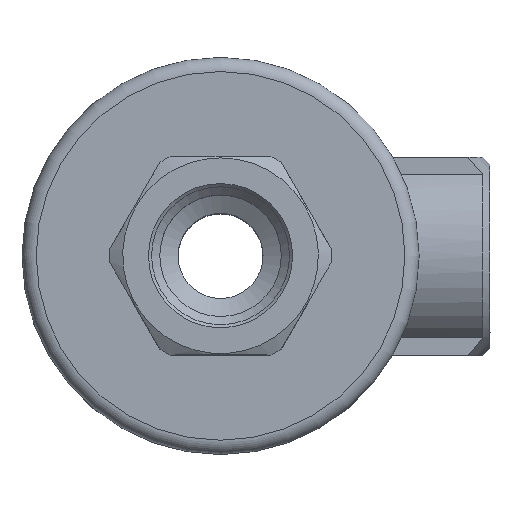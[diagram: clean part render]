
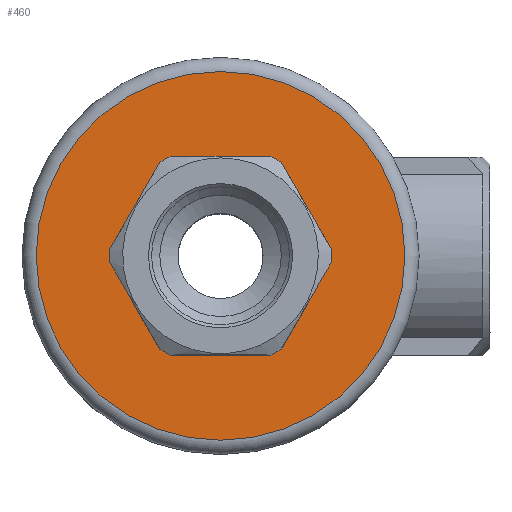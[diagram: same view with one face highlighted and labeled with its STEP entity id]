
A CAD part, top view. The second image highlights one B-rep face of the part: STEP entity #460.
In plain terms, the highlighted planar face has unit normal (0, 0, 1).
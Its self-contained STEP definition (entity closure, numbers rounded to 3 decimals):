
#460=ADVANCED_FACE('', (#470,#480), #490, .T.);
#4610=AXIS2_PLACEMENT_3D('Ax2Pl3d', #4620, #4630, #4640);
#4650=AXIS2_PLACEMENT_3D('Ax2Pl3d', #4660, #4670, #4680);
#4690=AXIS2_PLACEMENT_3D('Ax2Pl3d', #4700, #4710, #4720);
#4730=AXIS2_PLACEMENT_3D('Ax2Pl3d', #4740, #4750, #4760);
#4770=AXIS2_PLACEMENT_3D('Ax2Pl3d', #4780, #4790, #4800);
#4810=AXIS2_PLACEMENT_3D('Ax2Pl3d', #4820, #4830, #4840);
#4850=AXIS2_PLACEMENT_3D('Ax2Pl3d', #4860, #4870, #4880);
#4890=AXIS2_PLACEMENT_3D('Ax2Pl3d', #4900, #4910, #4920);
#4620=CARTESIAN_POINT('HicPkt', (35.714,20.774,
50.514));
#4660=CARTESIAN_POINT('HicPkt', (22.714,20.774,
50.514));
#23780=CARTESIAN_POINT('', (22.714,7.774,50.514));
#23790=CARTESIAN_POINT('', (19.162,27.774,50.514));
#23800=CARTESIAN_POINT('', (26.267,27.774,50.514));
#23810=CARTESIAN_POINT('', (19.162,27.774,50.514));
#4700=CARTESIAN_POINT('HicPkt', (22.714,20.774,
50.514));
#23820=CARTESIAN_POINT('', (27.,27.351,50.514));
#23830=CARTESIAN_POINT('', (27.,27.351,50.514));
#23840=CARTESIAN_POINT('', (30.553,21.198,50.514));
#4740=CARTESIAN_POINT('HicPkt', (22.714,20.774,
50.514));
#23850=CARTESIAN_POINT('', (30.553,20.351,50.514));
#23860=CARTESIAN_POINT('', (30.553,20.351,50.514));
#23870=CARTESIAN_POINT('', (27.,14.198,50.514));
#4780=CARTESIAN_POINT('HicPkt', (22.714,20.774,
50.514));
#23880=CARTESIAN_POINT('', (26.267,13.774,50.514));
#23890=CARTESIAN_POINT('', (26.267,13.774,50.514));
#23900=CARTESIAN_POINT('', (19.162,13.774,50.514));
#4820=CARTESIAN_POINT('HicPkt', (22.714,20.774,
50.514));
#23910=CARTESIAN_POINT('', (18.429,14.198,50.514));
#23920=CARTESIAN_POINT('', (18.429,14.198,50.514));
#23930=CARTESIAN_POINT('', (14.876,20.351,50.514));
#4860=CARTESIAN_POINT('HicPkt', (22.714,20.774,
50.514));
#23940=CARTESIAN_POINT('', (14.876,21.198,50.514));
#23950=CARTESIAN_POINT('', (14.876,21.198,50.514));
#23960=CARTESIAN_POINT('', (18.429,27.351,50.514));
#4900=CARTESIAN_POINT('HicPkt', (22.714,20.774,
50.514));
#25550=CIRCLE('Circle', #4650, 13.);
#25560=CIRCLE('Circle', #4690, 7.85);
#25570=CIRCLE('Circle', #4730, 7.85);
#25580=CIRCLE('Circle', #4770, 7.85);
#25590=CIRCLE('Circle', #4810, 7.85);
#25600=CIRCLE('Circle', #4850, 7.85);
#25610=CIRCLE('Circle', #4890, 7.85);
#4630=DIRECTION('Axis', (-0.,-0.,1.));
#4640=DIRECTION('RefDirection', (-0.142,-0.99,
-0.));
#4670=DIRECTION('Axis', (-0.,-0.,1.));
#4680=DIRECTION('RefDirection', (-0.142,-0.99,
-0.));
#31780=DIRECTION('', (-1.,0.,0.));
#4710=DIRECTION('Axis', (-0.,-0.,1.));
#4720=DIRECTION('RefDirection', (-0.142,-0.99,
-0.));
#31790=DIRECTION('', (-0.5,0.866,
0.));
#4750=DIRECTION('Axis', (-0.,-0.,1.));
#4760=DIRECTION('RefDirection', (-0.142,-0.99,
-0.));
#31800=DIRECTION('', (0.5,0.866,0.));
#4790=DIRECTION('Axis', (-0.,-0.,1.));
#4800=DIRECTION('RefDirection', (-0.142,-0.99,
-0.));
#31810=DIRECTION('', (1.,0.,0.));
#4830=DIRECTION('Axis', (-0.,-0.,1.));
#4840=DIRECTION('RefDirection', (-0.142,-0.99,
-0.));
#31820=DIRECTION('', (0.5,-0.866,0.));
#4870=DIRECTION('Axis', (-0.,-0.,1.));
#4880=DIRECTION('RefDirection', (-0.142,-0.99,
-0.));
#31830=DIRECTION('', (-0.5,-0.866,0.));
#4910=DIRECTION('Axis', (-0.,-0.,1.));
#4920=DIRECTION('RefDirection', (-0.142,-0.99,
-0.));
#32400=EDGE_CURVE('', #32410, #32410, #25550, .T.);
#32420=EDGE_CURVE('', #32430, #32440, #32450, .T.);
#32460=EDGE_CURVE('', #32470, #32430, #25560, .T.);
#32480=EDGE_CURVE('', #32490, #32470, #32500, .T.);
#32510=EDGE_CURVE('', #32520, #32490, #25570, .T.);
#32530=EDGE_CURVE('', #32540, #32520, #32550, .T.);
#32560=EDGE_CURVE('', #32570, #32540, #25580, .T.);
#32580=EDGE_CURVE('', #32590, #32570, #32600, .T.);
#32610=EDGE_CURVE('', #32620, #32590, #25590, .T.);
#32630=EDGE_CURVE('', #32640, #32620, #32650, .T.);
#32660=EDGE_CURVE('', #32670, #32640, #25600, .T.);
#32680=EDGE_CURVE('', #32690, #32670, #32700, .T.);
#32710=EDGE_CURVE('', #32440, #32690, #25610, .T.);
#35920=EDGE_LOOP('Edge_loop', (#35930));
#35940=EDGE_LOOP('Edge_loop', (#35950,#35960,#35970,#35980,#35990,
#36000,#36010,#36020,#36030,#36040,#36050,#36060));
#480=FACE_BOUND('', #35940, .T.);
#470=FACE_OUTER_BOUND('Face_outer_bound', #35920, .T.);
#32450=LINE('Line', #23790, #41550);
#32500=LINE('Line', #23830, #41560);
#32550=LINE('Line', #23860, #41570);
#32600=LINE('Line', #23890, #41580);
#32650=LINE('Line', #23920, #41590);
#32700=LINE('Line', #23950, #41600);
#35930=ORIENTED_EDGE('', *, *, #32400, .T.);
#35950=ORIENTED_EDGE('', *, *, #32420, .F.);
#35960=ORIENTED_EDGE('', *, *, #32460, .F.);
#35970=ORIENTED_EDGE('', *, *, #32480, .F.);
#35980=ORIENTED_EDGE('', *, *, #32510, .F.);
#35990=ORIENTED_EDGE('', *, *, #32530, .F.);
#36000=ORIENTED_EDGE('', *, *, #32560, .F.);
#36010=ORIENTED_EDGE('', *, *, #32580, .F.);
#36020=ORIENTED_EDGE('', *, *, #32610, .F.);
#36030=ORIENTED_EDGE('', *, *, #32630, .F.);
#36040=ORIENTED_EDGE('', *, *, #32660, .F.);
#36050=ORIENTED_EDGE('', *, *, #32680, .F.);
#36060=ORIENTED_EDGE('', *, *, #32710, .F.);
#490=PLANE('Plane', #4610);
#41550=VECTOR('', #31780, 7.106);
#41560=VECTOR('', #31790, 7.106);
#41570=VECTOR('', #31800, 7.106);
#41580=VECTOR('', #31810, 7.106);
#41590=VECTOR('', #31820, 7.106);
#41600=VECTOR('', #31830, 7.106);
#32410=VERTEX_POINT('', #23780);
#32430=VERTEX_POINT('', #23800);
#32440=VERTEX_POINT('', #23810);
#32470=VERTEX_POINT('', #23820);
#32490=VERTEX_POINT('', #23840);
#32520=VERTEX_POINT('', #23850);
#32540=VERTEX_POINT('', #23870);
#32570=VERTEX_POINT('', #23880);
#32590=VERTEX_POINT('', #23900);
#32620=VERTEX_POINT('', #23910);
#32640=VERTEX_POINT('', #23930);
#32670=VERTEX_POINT('', #23940);
#32690=VERTEX_POINT('', #23960);
